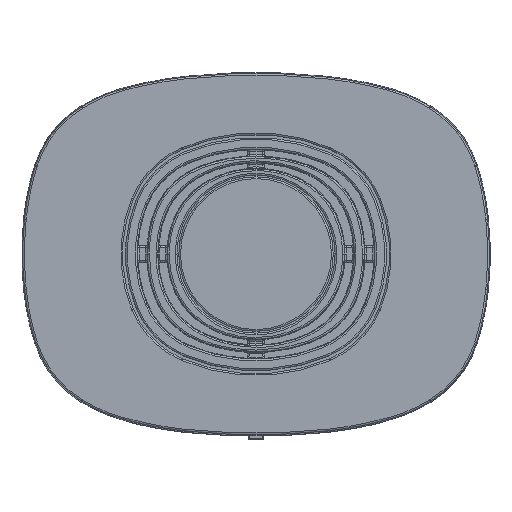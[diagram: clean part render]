
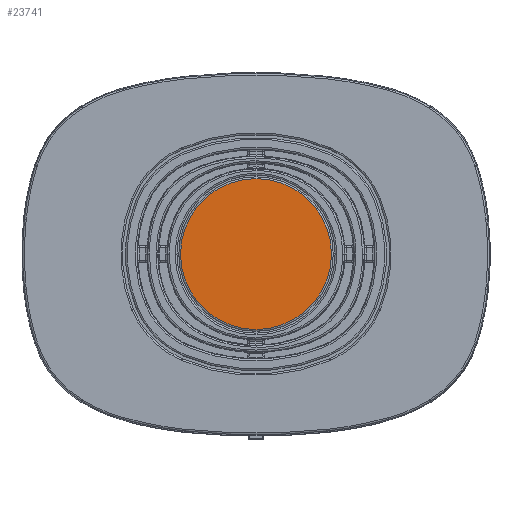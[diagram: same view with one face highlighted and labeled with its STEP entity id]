
A CAD part, top view. The second image highlights one B-rep face of the part: STEP entity #23741.
In plain terms, the highlighted planar face has unit normal (0, 0, 1).
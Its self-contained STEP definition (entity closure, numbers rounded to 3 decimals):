
#1975=PLANE('',#25996);
#7078=ORIENTED_EDGE('',*,*,#13543,.T.);
#13543=EDGE_CURVE('',#16884,#16884,#18928,.T.);
#16884=VERTEX_POINT('',#39874);
#18928=CIRCLE('',#25997,86.2);
#20282=EDGE_LOOP('',(#7078));
#21835=FACE_BOUND('',#20282,.T.);
#23741=ADVANCED_FACE('',(#21835),#1975,.T.);
#25996=AXIS2_PLACEMENT_3D('',#39872,#29793,#29794);
#25997=AXIS2_PLACEMENT_3D('',#39873,#29795,#29796);
#29793=DIRECTION('',(0.,0.,1.));
#29794=DIRECTION('',(1.,0.,0.));
#29795=DIRECTION('',(0.,0.,1.));
#29796=DIRECTION('',(1.,0.,0.));
#39872=CARTESIAN_POINT('',(-14.985,123.28,859.51));
#39873=CARTESIAN_POINT('',(0.,135.025,859.51));
#39874=CARTESIAN_POINT('',(86.2,135.025,859.51));
